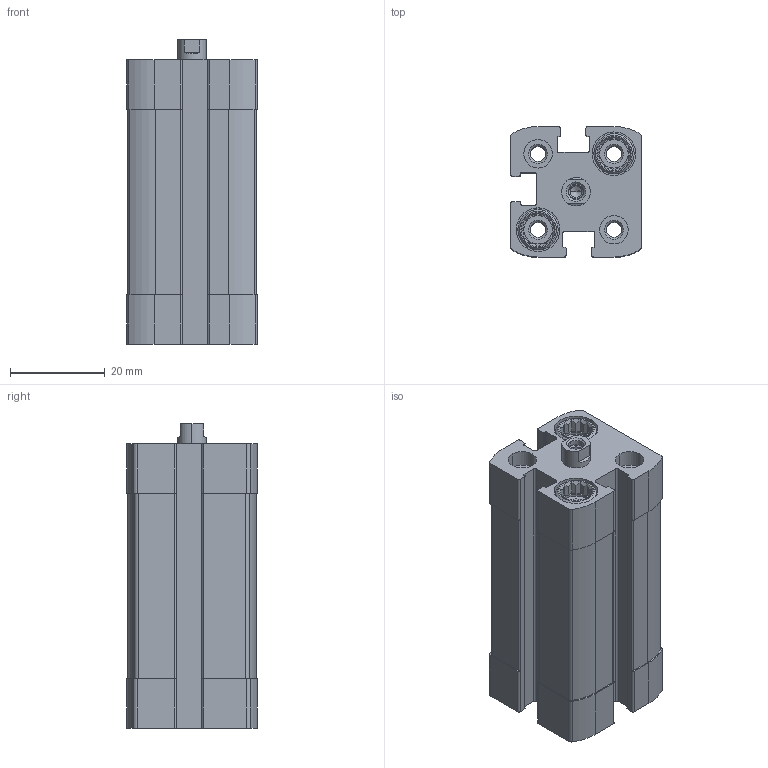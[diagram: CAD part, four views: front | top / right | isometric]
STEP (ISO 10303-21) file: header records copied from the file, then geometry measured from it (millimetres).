
FILE_DESCRIPTION (( 'STEP AP203' ), '1' );
FILE_NAME ('CCN12-25F.STEP', '2017-03-23T18:04:23', ( '' ), ( '' ), 'SwSTEP 2.0', 'SolidWorks 2016', '' );
FILE_SCHEMA (( 'CONFIG_CONTROL_DESIGN' ));
Length unit declared in the file: millimetre
Products named in the file (3): CCN12-25F_(KS); CCN12-25F; CCN12-25F---(Z)
Assembly tree (2 placements, depth 2):
  CCN12-25F
    CCN12-25F---(Z)
    CCN12-25F_(KS)
Bounding box: 27.5 x 27.5 x 64.2 mm (x, y, z)
Volume: 31766.2 mm3; surface area: 16978.8 mm2
Topology: 2 solids, 2 shells, 363 faces, 946 edges, 621 vertices
Faces by surface type: plane 187, cylinder 134, cone 42
Entity records: 11581 total; most frequent: CARTESIAN_POINT 2227, DIRECTION 1908, ORIENTED_EDGE 1888, EDGE_CURVE 944, AXIS2_PLACEMENT_3D 694, VERTEX_POINT 621, LINE 520, VECTOR 520
